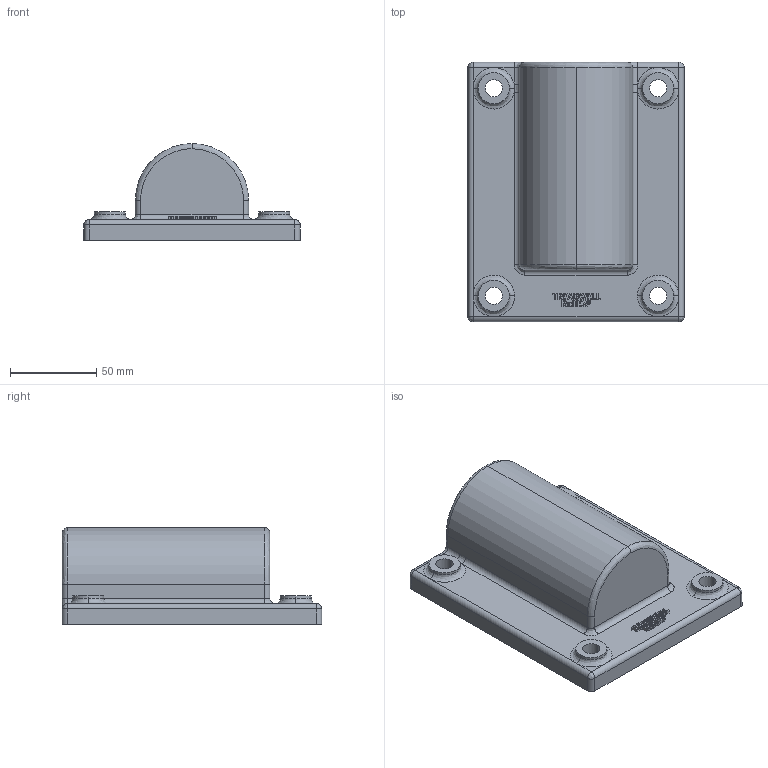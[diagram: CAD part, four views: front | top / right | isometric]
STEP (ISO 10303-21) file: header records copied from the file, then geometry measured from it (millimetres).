
FILE_DESCRIPTION (( 'STEP AP203' ), '1' );
FILE_NAME ('RAILEX STANDARD RXR-SMB.STEP', '2021-06-17T15:25:36', ( '' ), ( '' ), 'SwSTEP 2.0', 'SolidWorks 2020', '' );
FILE_SCHEMA (( 'CONFIG_CONTROL_DESIGN' ));
Length unit declared in the file: millimetre
Products named in the file (1): RAILEX STANDARD RXR-SMB
Bounding box: 125 x 150 x 56 mm (x, y, z)
Volume: 269525.7 mm3; surface area: 65608.9 mm2
Topology: 1 solids, 1 shells, 337 faces, 885 edges, 571 vertices
Faces by surface type: plane 191, bspline 102, cylinder 44
Entity records: 14280 total; most frequent: CARTESIAN_POINT 6523, ORIENTED_EDGE 1762, DIRECTION 1263, EDGE_CURVE 881, LINE 597, VECTOR 597, VERTEX_POINT 571, EDGE_LOOP 370
